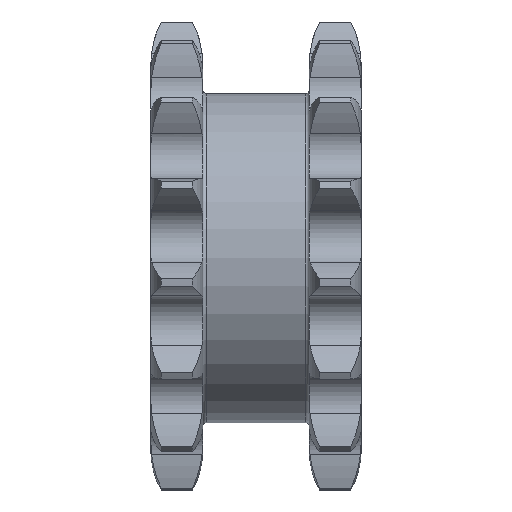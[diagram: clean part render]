
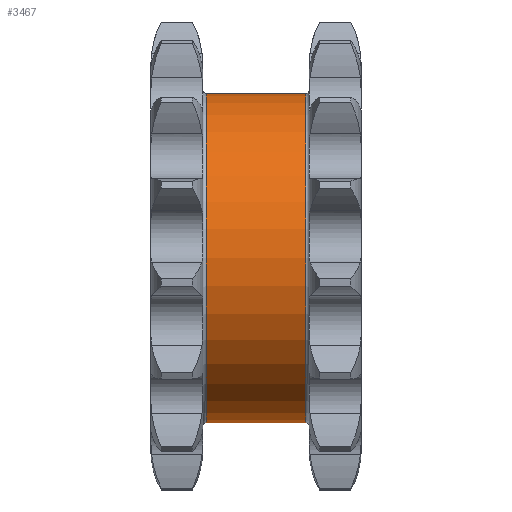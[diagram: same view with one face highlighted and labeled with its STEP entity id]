
A CAD part, top view. The second image highlights one B-rep face of the part: STEP entity #3467.
In plain terms, the highlighted cylindrical face has radius 29 mm (diameter 58 mm), a full revolution.
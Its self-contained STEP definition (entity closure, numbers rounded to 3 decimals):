
#85=FACE_BOUND('',#660,.T.);
#274=CIRCLE('',#3840,29.);
#275=CIRCLE('',#3842,29.);
#463=FACE_OUTER_BOUND('',#659,.T.);
#659=EDGE_LOOP('',(#3077));
#660=EDGE_LOOP('',(#3078));
#1516=VERTEX_POINT('',#6942);
#1517=VERTEX_POINT('',#6945);
#2060=EDGE_CURVE('',#1516,#1516,#274,.T.);
#2061=EDGE_CURVE('',#1517,#1517,#275,.T.);
#3077=ORIENTED_EDGE('',*,*,#2060,.T.);
#3078=ORIENTED_EDGE('',*,*,#2061,.F.);
#3282=CYLINDRICAL_SURFACE('',#3841,29.);
#3467=ADVANCED_FACE('',(#463,#85),#3282,.T.);
#3840=AXIS2_PLACEMENT_3D('',#6943,#4703,#4704);
#3841=AXIS2_PLACEMENT_3D('',#6944,#4705,#4706);
#3842=AXIS2_PLACEMENT_3D('',#6946,#4707,#4708);
#4703=DIRECTION('center_axis',(-1.,0.,0.));
#4704=DIRECTION('ref_axis',(0.,0.,1.));
#4705=DIRECTION('center_axis',(-1.,0.,0.));
#4706=DIRECTION('ref_axis',(0.,-1.,0.));
#4707=DIRECTION('center_axis',(-1.,0.,0.));
#4708=DIRECTION('ref_axis',(0.,0.,1.));
#6942=CARTESIAN_POINT('',(15.144,-2.831,0.));
#6943=CARTESIAN_POINT('Origin',(15.144,26.169,0.));
#6944=CARTESIAN_POINT('Origin',(6.344,26.169,0.));
#6945=CARTESIAN_POINT('',(-2.456,-2.831,0.));
#6946=CARTESIAN_POINT('Origin',(-2.456,26.169,0.));
